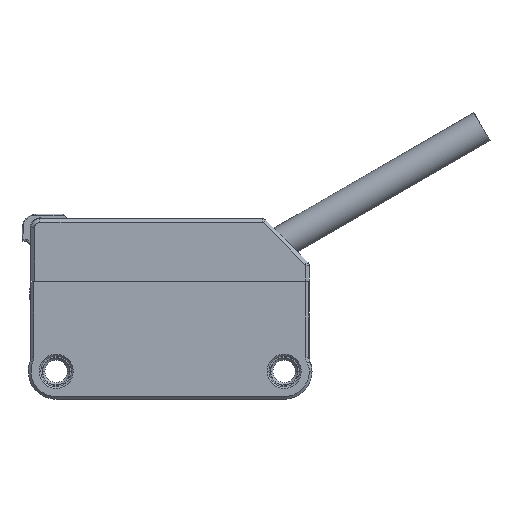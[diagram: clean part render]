
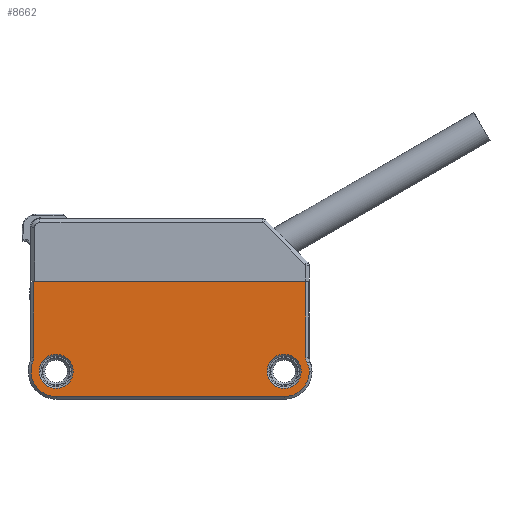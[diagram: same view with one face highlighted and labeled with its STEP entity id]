
A CAD part, front view. The second image highlights one B-rep face of the part: STEP entity #8662.
In plain terms, the highlighted planar face has unit normal (0, -1, 0).
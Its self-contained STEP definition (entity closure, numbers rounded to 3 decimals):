
#1346=DIRECTION('',(-1.,0.,0.));
#1347=VECTOR('',#1346,30.31);
#1348=CARTESIAN_POINT('',(27.21,-6.,0.2));
#1349=LINE('',#1348,#1347);
#1553=DIRECTION('',(0.,0.,-1.));
#1554=VECTOR('',#1553,8.461);
#1555=CARTESIAN_POINT('',(-3.1,-6.,0.2));
#1556=LINE('',#1555,#1554);
#1561=CARTESIAN_POINT('',(24.8,-6.,-9.8));
#1562=DIRECTION('',(0.,1.,0.));
#1563=DIRECTION('',(1.,0.,-0.001));
#1564=AXIS2_PLACEMENT_3D('',#1561,#1562,#1563);
#1566=CARTESIAN_POINT('',(-0.6,-6.,-9.8));
#1567=DIRECTION('',(0.,1.,0.));
#1568=DIRECTION('',(0.,0.,-1.));
#1569=AXIS2_PLACEMENT_3D('',#1566,#1567,#1568);
#1571=CARTESIAN_POINT('',(-4.4,-6.,-8.261));
#1572=DIRECTION('',(0.,-1.,0.));
#1573=DIRECTION('',(0.927,0.,-0.375));
#1574=AXIS2_PLACEMENT_3D('',#1571,#1572,#1573);
#1576=CARTESIAN_POINT('',(-0.6,-6.,-9.8));
#1577=DIRECTION('',(0.,-1.,0.));
#1578=DIRECTION('',(0.,0.,-1.));
#1579=AXIS2_PLACEMENT_3D('',#1576,#1577,#1578);
#1581=CARTESIAN_POINT('',(-0.6,-6.,-9.8));
#1582=DIRECTION('',(0.,-1.,0.));
#1583=DIRECTION('',(0.,0.,1.));
#1584=AXIS2_PLACEMENT_3D('',#1581,#1582,#1583);
#1586=CARTESIAN_POINT('',(24.8,-6.,-9.8));
#1587=DIRECTION('',(0.,-1.,0.));
#1588=DIRECTION('',(0.,0.,-1.));
#1589=AXIS2_PLACEMENT_3D('',#1586,#1587,#1588);
#1591=CARTESIAN_POINT('',(24.8,-6.,-9.8));
#1592=DIRECTION('',(0.,-1.,0.));
#1593=DIRECTION('',(0.,0.,1.));
#1594=AXIS2_PLACEMENT_3D('',#1591,#1592,#1593);
#1600=DIRECTION('',(0.,0.,1.));
#1601=VECTOR('',#1600,8.449);
#1602=CARTESIAN_POINT('',(27.21,-6.,
-8.249));
#1603=LINE('',#1602,#1601);
#1786=DIRECTION('',(1.,0.,0.));
#1787=VECTOR('',#1786,25.4);
#1788=CARTESIAN_POINT('',(-0.6,-6.,
-12.6));
#1789=LINE('',#1788,#1787);
#1799=CARTESIAN_POINT('',(27.6,-6.,
-9.804));
#1800=CARTESIAN_POINT('',(27.597,-6.,
-9.692));
#1801=CARTESIAN_POINT('',(27.574,-6.,
-9.472));
#1802=CARTESIAN_POINT('',(27.491,-6.,
-9.147));
#1803=CARTESIAN_POINT('',(27.405,-6.,
-8.943));
#1804=CARTESIAN_POINT('',(27.354,-6.,
-8.844));
#1810=CARTESIAN_POINT('',(27.354,-6.,
-8.844));
#1811=CARTESIAN_POINT('',(27.323,-6.,
-8.782));
#1812=CARTESIAN_POINT('',(27.27,-6.,
-8.656));
#1813=CARTESIAN_POINT('',(27.221,-6.,
-8.454));
#1814=CARTESIAN_POINT('',(27.21,-6.,
-8.318));
#1815=CARTESIAN_POINT('',(27.21,-6.,
-8.249));
#5686=CARTESIAN_POINT('',(27.21,-6.,0.2));
#5687=VERTEX_POINT('',#5686);
#5688=CARTESIAN_POINT('',(-3.1,-6.,0.2));
#5689=VERTEX_POINT('',#5688);
#5739=CARTESIAN_POINT('',(-3.195,-6.,-8.749));
#5740=CARTESIAN_POINT('',(-3.1,-6.,-8.261));
#5741=VERTEX_POINT('',#5739);
#5742=VERTEX_POINT('',#5740);
#5743=CARTESIAN_POINT('',(27.21,-6.,
-8.249));
#5744=VERTEX_POINT('',#5743);
#5745=VERTEX_POINT('',#1810);
#5746=VERTEX_POINT('',#1799);
#5747=CARTESIAN_POINT('',(24.8,-6.,-12.6));
#5748=VERTEX_POINT('',#5747);
#5749=CARTESIAN_POINT('',(-0.6,-6.,
-12.6));
#5750=VERTEX_POINT('',#5749);
#5751=CARTESIAN_POINT('',(-0.6,-6.,-11.7));
#5752=CARTESIAN_POINT('',(-0.6,-6.,-7.9));
#5753=VERTEX_POINT('',#5751);
#5754=VERTEX_POINT('',#5752);
#5755=CARTESIAN_POINT('',(24.8,-6.,-11.7));
#5756=CARTESIAN_POINT('',(24.8,-6.,-7.9));
#5757=VERTEX_POINT('',#5755);
#5758=VERTEX_POINT('',#5756);
#8627=CARTESIAN_POINT('',(12.1,-6.,-6.2));
#8628=DIRECTION('',(0.,1.,0.));
#8629=DIRECTION('',(1.,0.,0.));
#8630=AXIS2_PLACEMENT_3D('',#8627,#8628,#8629);
#8631=PLANE('',#8630);
#8633=ORIENTED_EDGE('',*,*,#8632,.F.);
#8635=ORIENTED_EDGE('',*,*,#8634,.F.);
#8637=ORIENTED_EDGE('',*,*,#8636,.F.);
#8639=ORIENTED_EDGE('',*,*,#8638,.T.);
#8641=ORIENTED_EDGE('',*,*,#8640,.F.);
#8643=ORIENTED_EDGE('',*,*,#8642,.T.);
#8645=ORIENTED_EDGE('',*,*,#8644,.T.);
#8646=ORIENTED_EDGE('',*,*,#8619,.F.);
#8647=ORIENTED_EDGE('',*,*,#8417,.F.);
#8648=EDGE_LOOP('',(#8633,#8635,#8637,#8639,#8641,#8643,#8645,#8646,#8647));
#8649=FACE_OUTER_BOUND('',#8648,.F.);
#8651=ORIENTED_EDGE('',*,*,#8650,.T.);
#8653=ORIENTED_EDGE('',*,*,#8652,.T.);
#8654=EDGE_LOOP('',(#8651,#8653));
#8655=FACE_BOUND('',#8654,.F.);
#8657=ORIENTED_EDGE('',*,*,#8656,.T.);
#8659=ORIENTED_EDGE('',*,*,#8658,.T.);
#8660=EDGE_LOOP('',(#8657,#8659));
#8661=FACE_BOUND('',#8660,.F.);
#8662=ADVANCED_FACE('',(#8649,#8655,#8661),#8631,.F.);
#1565=CIRCLE('',#1564,2.8);
#1570=CIRCLE('',#1569,2.8);
#1575=CIRCLE('',#1574,1.3);
#1580=CIRCLE('',#1579,1.9);
#1585=CIRCLE('',#1584,1.9);
#1590=CIRCLE('',#1589,1.9);
#1595=CIRCLE('',#1594,1.9);
#1805=B_SPLINE_CURVE_WITH_KNOTS('',3,(#1799,#1800,#1801,#1802,#1803,#1804),
.UNSPECIFIED.,.F.,.F.,(4,1,1,4),(0.,0.333,0.667,1.),
.UNSPECIFIED.);
#1816=B_SPLINE_CURVE_WITH_KNOTS('',3,(#1810,#1811,#1812,#1813,#1814,#1815),
.UNSPECIFIED.,.F.,.F.,(4,1,1,4),(0.,0.333,0.667,1.),
.UNSPECIFIED.);
#8417=EDGE_CURVE('',#5687,#5689,#1349,.T.);
#8619=EDGE_CURVE('',#5689,#5742,#1556,.T.);
#8632=EDGE_CURVE('',#5744,#5687,#1603,.T.);
#8634=EDGE_CURVE('',#5745,#5744,#1816,.T.);
#8636=EDGE_CURVE('',#5746,#5745,#1805,.T.);
#8638=EDGE_CURVE('',#5746,#5748,#1565,.T.);
#8640=EDGE_CURVE('',#5750,#5748,#1789,.T.);
#8642=EDGE_CURVE('',#5750,#5741,#1570,.T.);
#8644=EDGE_CURVE('',#5741,#5742,#1575,.T.);
#8650=EDGE_CURVE('',#5753,#5754,#1580,.T.);
#8652=EDGE_CURVE('',#5754,#5753,#1585,.T.);
#8656=EDGE_CURVE('',#5757,#5758,#1590,.T.);
#8658=EDGE_CURVE('',#5758,#5757,#1595,.T.);
